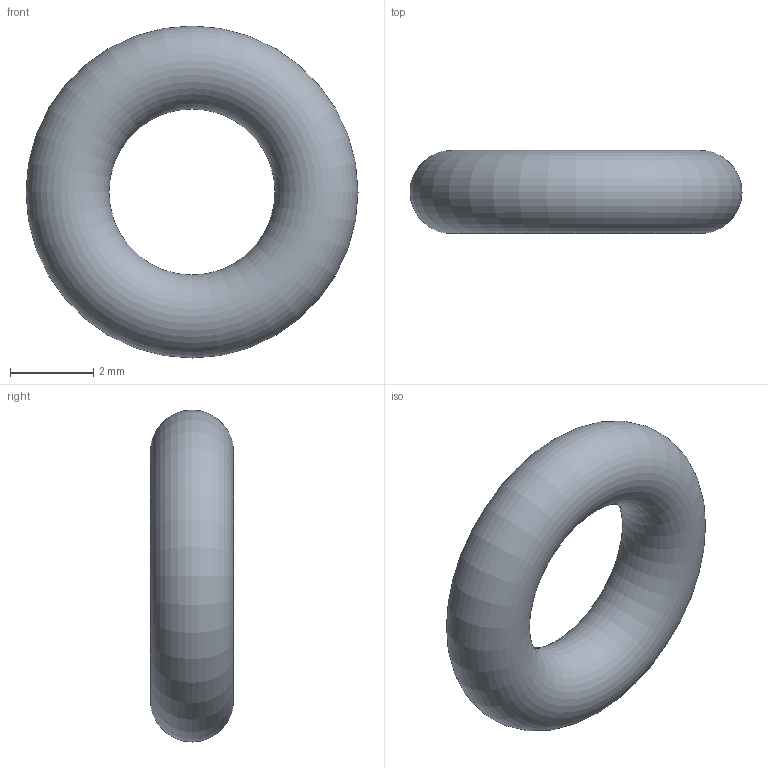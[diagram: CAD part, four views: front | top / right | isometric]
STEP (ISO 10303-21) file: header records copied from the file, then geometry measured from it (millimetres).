
FILE_DESCRIPTION( ( 'STEP AP203' ), '1' );
FILE_NAME( 'C:/Temp/Ganter_Step_05_03_2020/data/3_5/or638/O-Ring OR638-4.00-2.00-70.stp', '2020-03-12T13:44:20', ( 'License CC BY-ND 4.0' ), ( 'CADENAS' ), ' ', 'PARTsolutions', ' ' );
FILE_SCHEMA( ( 'CONFIG_CONTROL_DESIGN' ) );
Length unit declared in the file: millimetre
Products named in the file (1): _O-Ring OR638-4.00-2.00-70
Bounding box: 8 x 2 x 8 mm (x, y, z)
Volume: 59.2 mm3; surface area: 118.4 mm2
Topology: 1 solids, 1 shells, 1 faces, 2 edges, 1 vertices
Faces by surface type: torus 1
Entity records: 62 total; most frequent: CC_DESIGN_PERSON_AND_ORGANIZATION_ASSIGNMENT 5, PERSON_AND_ORGANIZATION_ROLE 4, DIRECTION 4, CARTESIAN_POINT 3, DATE_TIME_ROLE 2, CC_DESIGN_DATE_AND_TIME_ASSIGNMENT 2, AXIS2_PLACEMENT_3D 2, DIMENSIONAL_EXPONENTS 2
